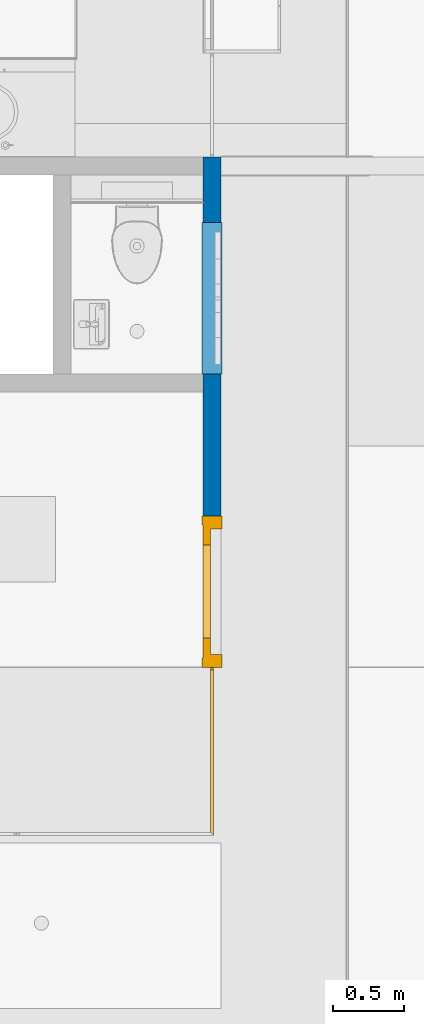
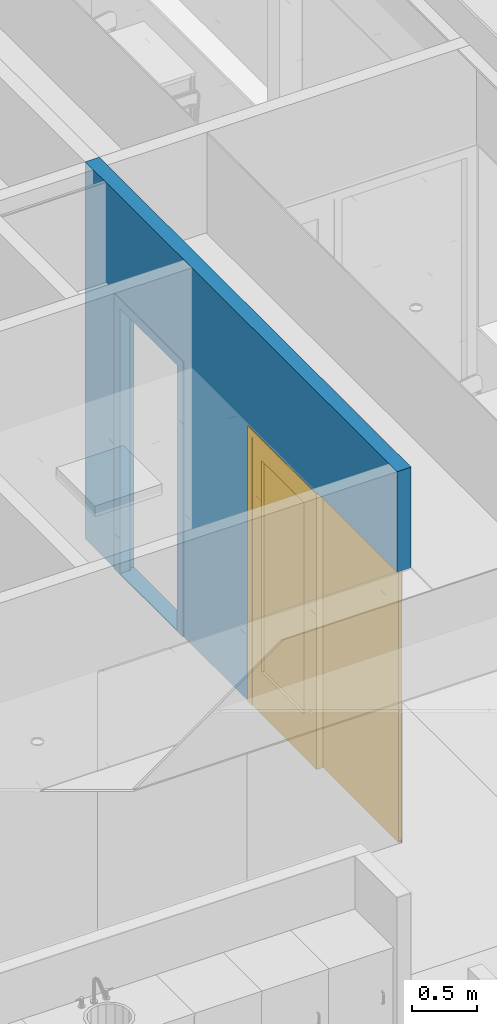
# One storey, part 24 of 260: 1 building element part, 1 door, 1 wall, 1 window, 3 openings, 1 element without a shape of its own.
"""IFC2X3 building model written with IfcOpenShell, lengths in millimetres."""

from ifc_helpers import new_model, entity, si_unit, converted_unit, derived_unit, money_unit, direction, frame, origin_with_axes, place, context, subcontext, project, spatial, open_shell, faceted_brep, surface_model, source, transform, mapped, material, type_object, type_shapes, element, fill, aggregate, save


model = new_model("IFC2X3")

# Units and contexts
model_context = context("Model", 3, precision=0.01, world=origin_with_axes(), true_north=direction((0.0, 1.0)))
plan_context = context("Plan", 3, precision=0.01, world=origin_with_axes(), true_north=direction((0.0, 1.0)))
body_context = subcontext(model_context, "Body", "Model", "MODEL_VIEW")
ifc_project = project(units=[si_unit("LENGTHUNIT", "METRE", prefix="MILLI"), si_unit("AREAUNIT", "SQUARE_METRE"), si_unit("VOLUMEUNIT", "CUBIC_METRE"), converted_unit("PLANEANGLEUNIT", "DEGREE", entity("IfcPlaneAngleMeasure", 0.0174532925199), si_unit("PLANEANGLEUNIT", "RADIAN"), dimensions=[0, 0, 0, 0, 0, 0, 0]), money_unit("EUR"), converted_unit("TIMEUNIT", "Year", entity("IfcTimeMeasure", 31556926.0), si_unit("TIMEUNIT", "SECOND"), dimensions=[0, 0, 1, 0, 0, 0, 0]), si_unit("MASSUNIT", "GRAM", prefix="KILO"), si_unit("THERMODYNAMICTEMPERATUREUNIT", "DEGREE_CELSIUS"), si_unit("LUMINOUSINTENSITYUNIT", "LUMEN"), si_unit("ENERGYUNIT", "JOULE", prefix="MEGA"), derived_unit("THERMALCONDUCTANCEUNIT", [(si_unit("POWERUNIT", "WATT"), 1), (si_unit("LENGTHUNIT", "METRE"), -1), (si_unit("THERMODYNAMICTEMPERATUREUNIT", "KELVIN"), -1)]), derived_unit("SPECIFICHEATCAPACITYUNIT", [(si_unit("ENERGYUNIT", "JOULE"), 1), (si_unit("MASSUNIT", "GRAM", prefix="KILO"), -1), (si_unit("THERMODYNAMICTEMPERATUREUNIT", "KELVIN"), -1)]), derived_unit("MASSDENSITYUNIT", [(si_unit("MASSUNIT", "GRAM", prefix="KILO"), 1), (si_unit("VOLUMEUNIT", "CUBIC_METRE"), -1)])], contexts=[model_context, plan_context])

# Site, building, storey
site_placement = place(None, origin_with_axes())
site = spatial("IfcSite", under=ifc_project, at=site_placement, Name="Site", CompositionType="ELEMENT")
building_placement = place(site_placement, origin_with_axes())
building = spatial("IfcBuilding", under=site, at=building_placement, Name="Naam gebouw", CompositionType="ELEMENT")
storey_placement = place(building_placement, frame((0.0, 0.0, 3960.0), z_axis=(0.0, 0.0, 1.0), x_axis=(1.0, 0.0, 0.0)))
storey = spatial("IfcBuildingStorey", under=building, at=storey_placement, Name="verdieping", CompositionType="ELEMENT", Elevation=3960.0)

# Wall, openings, window, doors, building element part
ifc_material = material(Name="ALG - LICHTE SCHEIDINGSWAND")
wall_type = type_object("IfcWallType", Name="ALG LSW 125 125", PredefinedType="NOTDEFINED")
wall_placement = place(storey_placement, frame((32075.0, 15290.0, 0.0), z_axis=(0.0, 0.0, 1.0), x_axis=(0.0, 1.0, 0.0)))
wall = element("IfcWall", 1, at=wall_placement, inside=storey, type_object=wall_type, material=ifc_material, Name="22_GF 125 ECO DGS/2.75.2A", context=body_context, shape_type="Brep", body=[
    faceted_brep([(2299.0, -125.0, 0.0), (3297.5, -125.0, 0.0), (3297.5, -124.999927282, 2600.0), (4361.5, -124.999927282, 2600.0), (4361.5, -125.0, 0.0), (4822.5, -125.0, 0.0), (4822.5, -125.0, 3560.0), (0.0, -125.0, 3560.0), (0.000133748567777, -124.999927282, 2612.0), (1234.99996939, -124.999927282, 2612.0), (1235.0, -124.999927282, 2600.0), (2299.0, -124.999927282, 2600.0), (2299.0, 0.0, 0.0), (3297.5, 0.0, 0.0), (3297.5, 0.0, 2600.0), (4361.5, 0.0, 2600.0), (4361.5, 0.0, 0.0), (4822.5, 0.0, 0.0), (4822.5, 0.0, 3560.0), (0.0, 0.0, 3560.0), (0.000133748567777, 0.0, 2612.0), (1234.99996939, 0.0, 2612.0), (1235.0, 0.0, 2600.0), (2299.0, 0.0, 2600.0)], [[[0, 1, 2, 3, 4, 5, 6, 7, 8, 9, 10, 11]], [[12, 13, 1, 0]], [[14, 2, 1, 13]], [[15, 3, 2, 14]], [[16, 4, 3, 15]], [[5, 4, 16, 17]], [[17, 18, 6, 5]], [[19, 7, 6, 18]], [[20, 8, 7, 19]], [[9, 8, 20, 21]], [[10, 9, 21, 22]], [[11, 10, 22, 23]], [[0, 11, 23, 12]], [[15, 14, 13, 12, 23, 22, 21, 20, 19, 18, 17, 16]]]),
])
opening_1_placement = place(wall_placement, frame((653.75, 0.0, 0.0), z_axis=(0.0, 0.0, 1.0), x_axis=(1.0, 0.0, 0.0)))
opening_1 = element("IfcOpeningElement", 2, at=opening_1_placement, cuts=wall, Name="31_10.13c", context=body_context, shape_type="Brep", body=[
    faceted_brep([(-403.75, 125.0, 0.0), (581.25, 125.0, 0.0), (581.25, -72.5, 0.0), (-601.25, -72.5, 0.0), (-403.75, 125.0, 2600.0), (581.25, 125.0, 2600.0), (581.25, -72.5, 2600.0), (-601.25, -72.5, 2600.0)], [[[0, 1, 2, 3]], [[4, 5, 1, 0]], [[1, 5, 6, 2]], [[3, 2, 6, 7]], [[0, 3, 7, 4]], [[5, 4, 7, 6]]]),
    faceted_brep([(-653.75, -250.0, 0.0), (-653.75, -250.0, 2600.0), (-653.75, -125.0, 2600.0), (-653.75, -125.0, 0.0), (581.25, -250.0, 0.0), (581.25, -250.0, 2600.0), (581.25, -72.5, 2600.0), (-601.25, -72.5, 2600.0), (-601.25, -72.5, 0.0), (581.25, -72.5, 0.0)], [[[0, 1, 2, 3]], [[0, 4, 5, 1]], [[1, 5, 6, 7, 2]], [[7, 8, 3, 2]], [[4, 0, 3, 8, 9]], [[5, 4, 9, 6]], [[7, 6, 9, 8]]]),
])
opening_2_placement = place(wall_placement, frame((1767.0, 0.0, 0.0), z_axis=(0.0, 0.0, 1.0), x_axis=(1.0, 0.0, 0.0)))
opening_2 = element("IfcOpeningElement", 3, at=opening_2_placement, cuts=wall, Name="32_02.01", context=body_context, shape_type="Brep", body=[
    faceted_brep([(532.0, -125.0, 2600.0), (532.0, -125.0, 0.0), (532.0, 257.0, 0.0), (532.0, 257.0, 2600.0), (-532.0, -125.0, 2600.0), (-532.0, -125.0, 0.0), (-532.0, 257.0, 0.0), (-532.0, 257.0, 2600.0)], [[[0, 1, 2, 3]], [[0, 4, 5, 1]], [[1, 5, 6, 2]], [[3, 2, 6, 7]], [[4, 0, 3, 7]], [[5, 4, 7, 6]]]),
])
opening_3_placement = place(wall_placement, frame((3829.5, 0.0, 0.0), z_axis=(0.0, 0.0, 1.0), x_axis=(1.0, 0.0, 0.0)))
opening_3 = element("IfcOpeningElement", 4, at=opening_3_placement, cuts=wall, Name="32_01.05", context=body_context, shape_type="Brep", body=[
    faceted_brep([(532.0, -257.0, 2600.0), (532.0, -257.0, 0.0), (532.0, 125.0, 0.0), (532.0, 125.0, 2600.0), (-532.0, -257.0, 2600.0), (-532.0, -257.0, 0.0), (-532.0, 125.0, 0.0), (-532.0, 125.0, 2600.0)], [[[0, 1, 2, 3]], [[0, 4, 5, 1]], [[1, 5, 6, 2]], [[3, 2, 6, 7]], [[4, 0, 3, 7]], [[5, 4, 7, 6]]]),
])
window_style = type_object("IfcWindowStyle", Name="R1 25", ConstructionType="NOTDEFINED", OperationType="SINGLE_PANEL", ParameterTakesPrecedence=False, Sizeable=False)
window_placement = place(opening_1_placement, frame((581.25, 0.0, 0.0), z_axis=(0.0, 0.0, 1.0), x_axis=(-1.0, 0.0, 0.0)))
window = element("IfcWindow", 5, at=window_placement, inside=storey, type_object=window_style, Name="31_10.13c", ObjectType="WINDOW", OverallHeight=2600.0, OverallWidth=1162.5, context=body_context, shape_type="SurfaceModel", body=[
    faceted_brep([(20.0, 52.5, 2580.0), (20.0, 72.5, 2580.0), (0.0, 72.5, 2580.0), (0.0, 52.5, 2580.0), (20.0, 52.5, 20.0), (20.0, 72.5, 20.0), (0.0, 72.5, 20.0), (0.0, 52.5, 20.0)], [[[0, 1, 2, 3]], [[4, 5, 1, 0]], [[1, 5, 6, 2]], [[3, 2, 6, 7]], [[0, 3, 7, 4]], [[7, 6, 5, 4]]]),
    faceted_brep([(0.0, 72.5, 20.0), (0.0, 52.5, 20.0), (20.0, 52.5, 20.0), (20.0, 72.5, 20.0), (0.0, 52.5, 0.0), (0.0, 72.5, 0.0), (1162.5, 52.5, 0.0), (1162.5, 52.5, 20.0), (1182.5, 72.5, 20.0), (1182.5, 72.5, 0.0)], [[[0, 1, 2, 3]], [[4, 1, 0, 5]], [[1, 4, 6, 7, 2]], [[2, 7, 8, 3]], [[5, 0, 3, 8, 9]], [[5, 9, 6, 4]], [[7, 6, 9, 8]]]),
    faceted_brep([(0.0, 72.5, 2580.0), (20.0, 72.5, 2580.0), (20.0, 52.5, 2580.0), (0.0, 52.5, 2580.0), (0.0, 72.5, 2600.0), (1182.5, 72.5, 2600.0), (1182.5, 72.5, 2580.0), (1162.5, 52.5, 2580.0), (0.0, 52.5, 2600.0), (1162.5, 52.5, 2600.0)], [[[0, 1, 2, 3]], [[0, 4, 5, 6, 1]], [[7, 2, 1, 6]], [[8, 3, 2, 7, 9]], [[3, 8, 4, 0]], [[4, 8, 9, 5]], [[9, 7, 6, 5]]]),
    surface_model("IfcShellBasedSurfaceModel", [(20.0, 52.5, 20.0), (1162.5, 52.5, 20.0), (1162.5, 52.5, 2580.0), (20.0, 52.5, 2580.0)], [open_shell([[[0, 1, 2, 3]]])]),
    surface_model("IfcShellBasedSurfaceModel", [(20.0, 72.5, 20.0), (20.0, 72.5, 2580.0), (1182.5, 72.5, 2580.0), (1182.5, 72.5, 20.0)], [open_shell([[[0, 1, 2, 3]]])]),
])
fill(opening_1, window)
door_style_1 = type_object("IfcDoorStyle", Name="D1 25", ConstructionType="NOTDEFINED", OperationType="SINGLE_SWING_RIGHT", ParameterTakesPrecedence=False, Sizeable=False)
shared_shape = source(origin_with_axes(), body_context, "Body", "SurfaceModel", [
    faceted_brep([(-442.0, -60.0, 0.0), (-442.0, -60.0, 2510.0), (-442.0, -139.0, 2510.0), (-442.0, -139.0, 0.0), (-467.0, -60.0, 2510.0), (-467.0, -60.0, 0.0), (-467.0, 0.0, 2510.0), (-532.0, 0.0, 2510.0), (-532.0, -139.0, 2510.0), (-532.0, -139.0, 0.0), (-532.0, 0.0, 0.0), (-467.0, 0.0, 0.0)], [[[0, 1, 2, 3]], [[4, 1, 0, 5]], [[4, 6, 7, 8, 2, 1]], [[3, 2, 8, 9]], [[5, 0, 3, 9, 10, 11]], [[6, 4, 5, 11]], [[6, 11, 10, 7]], [[10, 9, 8, 7]]]),
    faceted_brep([(467.0, -60.0, 2510.0), (442.0, -60.0, 2510.0), (442.0, -139.0, 2510.0), (532.0, -139.0, 2510.0), (532.0, 0.0, 2510.0), (467.0, 0.0, 2510.0), (467.0, -60.0, 0.0), (442.0, -60.0, 0.0), (442.0, -139.0, 0.0), (532.0, -139.0, 0.0), (532.0, 0.0, 0.0), (467.0, 0.0, 0.0)], [[[0, 1, 2, 3, 4, 5]], [[1, 0, 6, 7]], [[1, 7, 8, 2]], [[3, 2, 8, 9]], [[4, 3, 9, 10]], [[11, 5, 4, 10]], [[0, 5, 11, 6]], [[6, 11, 10, 9, 8, 7]]]),
    faceted_brep([(-467.0, 0.0, 2535.0), (-467.0, 0.0, 2510.0), (-532.0, 0.0, 2510.0), (-532.0, 0.0, 2600.0), (532.0, 0.0, 2600.0), (532.0, 0.0, 2510.0), (467.0, 0.0, 2510.0), (467.0, 0.0, 2535.0), (-467.0, -60.0, 2535.0), (-467.0, -60.0, 2510.0), (-442.0, -60.0, 2510.0), (-442.0, -139.0, 2510.0), (-532.0, -139.0, 2510.0), (-532.0, -139.0, 2600.0), (532.0, -139.0, 2600.0), (532.0, -139.0, 2510.0), (467.0, -60.0, 2510.0), (442.0, -139.0, 2510.0), (442.0, -60.0, 2510.0), (467.0, -60.0, 2535.0)], [[[0, 1, 2, 3, 4, 5, 6, 7]], [[1, 0, 8, 9]], [[9, 10, 11, 12, 2, 1]], [[2, 12, 13, 3]], [[3, 13, 14, 4]], [[4, 14, 15, 5]], [[16, 6, 5, 15, 17, 18]], [[7, 6, 16, 19]], [[0, 7, 19, 8]], [[16, 18, 10, 9, 8, 19]], [[10, 18, 17, 11]], [[17, 15, 14, 13, 12, 11]]]),
    faceted_brep([(467.0, -6.0, 400.0), (467.0, -60.0, 400.0), (327.0, -60.0, 400.0), (327.0, -6.0, 400.0), (467.0, -6.0, 2395.0), (467.0, -60.0, 2395.0), (327.0, -60.0, 2395.0), (327.0, -6.0, 2395.0)], [[[0, 1, 2, 3]], [[4, 5, 1, 0]], [[1, 5, 6, 2]], [[3, 2, 6, 7]], [[0, 3, 7, 4]], [[7, 6, 5, 4]]]),
    faceted_brep([(-467.0, -6.0, 400.0), (-467.0, -60.0, 400.0), (-467.0, -60.0, 2395.0), (-467.0, -6.0, 2395.0), (-327.0, -6.0, 400.0), (-327.0, -60.0, 400.0), (-327.0, -60.0, 2395.0), (-327.0, -6.0, 2395.0)], [[[0, 1, 2, 3]], [[4, 5, 1, 0]], [[1, 5, 6, 2]], [[3, 2, 6, 7]], [[0, 3, 7, 4]], [[7, 6, 5, 4]]]),
    faceted_brep([(467.0, -6.0, 0.0), (467.0, -60.0, 0.0), (-467.0, -60.0, 0.0), (-467.0, -6.0, 0.0), (467.0, -6.0, 400.0), (467.0, -60.0, 400.0), (327.0, -60.0, 400.0), (-327.0, -60.0, 400.0), (-467.0, -60.0, 400.0), (-467.0, -6.0, 400.0), (-327.0, -6.0, 400.0), (327.0, -6.0, 400.0)], [[[0, 1, 2, 3]], [[4, 5, 1, 0]], [[1, 5, 6, 7, 8, 2]], [[3, 2, 8, 9]], [[0, 3, 9, 10, 11, 4]], [[11, 6, 5, 4]], [[10, 7, 6, 11]], [[9, 8, 7, 10]]]),
    faceted_brep([(467.0, -6.0, 2535.0), (467.0, -60.0, 2535.0), (467.0, -60.0, 2395.0), (467.0, -6.0, 2395.0), (-467.0, -6.0, 2535.0), (-467.0, -60.0, 2535.0), (-467.0, -60.0, 2395.0), (-327.0, -60.0, 2395.0), (327.0, -60.0, 2395.0), (327.0, -6.0, 2395.0), (-327.0, -6.0, 2395.0), (-467.0, -6.0, 2395.0)], [[[0, 1, 2, 3]], [[4, 5, 1, 0]], [[1, 5, 6, 7, 8, 2]], [[3, 2, 8, 9]], [[0, 3, 9, 10, 11, 4]], [[11, 6, 5, 4]], [[10, 7, 6, 11]], [[9, 8, 7, 10]]]),
    surface_model("IfcShellBasedSurfaceModel", [(327.0, -27.0, 400.0), (-327.0, -27.0, 400.0), (-327.0, -27.0, 2395.0), (327.0, -27.0, 2395.0)], [open_shell([[[0, 1, 2, 3]]])]),
    surface_model("IfcShellBasedSurfaceModel", [(327.0, -39.0, 400.0), (327.0, -39.0, 2395.0), (-327.0, -39.0, 2395.0), (-327.0, -39.0, 400.0)], [open_shell([[[0, 1, 2, 3]]])]),
])
type_shapes(door_style_1, [shared_shape])
door_1_placement = place(opening_2_placement, frame((-532.0, 0.0, 0.0), z_axis=(0.0, 0.0, 1.0), x_axis=(1.0, 0.0, 0.0)))
door_1 = element("IfcDoor", 6, at=door_1_placement, inside=storey, type_object=door_style_1, Name="32_02.01", ObjectType="DOOR", OverallHeight=2600.0, OverallWidth=1064.0, context=body_context, shape_type="MappedRepresentation", body=[
    mapped(shared_shape, transform((532.0, 7.00000000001, 0.0))),
])
fill(opening_2, door_1)
door_style_2 = type_object("IfcDoorStyle", Name="D1 25", ConstructionType="NOTDEFINED", OperationType="SINGLE_SWING_LEFT", ParameterTakesPrecedence=False, Sizeable=False)
door_2_placement = place(opening_3_placement, frame((532.0, 0.0, 0.0), z_axis=(0.0, 0.0, 1.0), x_axis=(-1.0, 0.0, 0.0)))
door_2 = element("IfcDoor", 7, at=door_2_placement, inside=storey, type_object=door_style_2, Name="32_01.05", ObjectType="DOOR", OverallHeight=2600.0, OverallWidth=1064.0)
fill(opening_3, door_2)
building_element_part_placement = place(door_2_placement, origin_with_axes())
building_element_part = element("IfcBuildingElementPart", 8, at=building_element_part_placement, context=body_context, shape_type="Brep", body=[
    faceted_brep([(999.0, 92.0, 10.0), (999.0, 132.0, 10.0), (65.0, 132.0, 10.0), (65.0, 92.0, 10.0), (90.0, 92.0, 10.0), (90.0, -7.00000000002, 10.0), (974.0, -7.00000000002, 10.0), (974.0, 92.0, 10.0), (999.0, 92.0, 0.0), (999.0, 132.0, 0.0), (65.0, 132.0, 0.0), (65.0, 92.0, 0.0), (90.0, 92.0, 0.0), (90.0, -7.00000000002, 0.0), (974.0, -7.00000000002, 0.0), (974.0, 92.0, 0.0)], [[[0, 1, 2, 3, 4, 5, 6, 7]], [[8, 9, 1, 0]], [[9, 10, 2, 1]], [[11, 3, 2, 10]], [[3, 11, 12, 4]], [[5, 4, 12, 13]], [[6, 5, 13, 14]], [[14, 15, 7, 6]], [[7, 15, 8, 0]], [[15, 14, 13, 12, 11, 10, 9, 8]]]),
    faceted_brep([(974.0, 82.0, 0.0), (974.0, -7.00000000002, 0.0), (974.0, -7.00000000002, 2510.0), (974.0, 82.0, 2510.0), (999.0, 82.0, 0.0), (999.0, 132.0, 0.0), (1064.0, 132.0, 0.0), (1064.0, -7.00000000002, 0.0), (1064.0, -7.00000000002, 2510.0), (999.0, 82.0, 2510.0), (1064.0, 132.0, 2510.0), (999.0, 132.0, 2510.0)], [[[0, 1, 2, 3]], [[4, 5, 6, 7, 1, 0]], [[1, 7, 8, 2]], [[9, 3, 2, 8, 10, 11]], [[9, 4, 0, 3]], [[11, 5, 4, 9]], [[11, 10, 6, 5]], [[6, 10, 8, 7]]]),
    faceted_brep([(65.0, 82.0, 2510.0), (65.0, 132.0, 2510.0), (0.0, 132.0, 2510.0), (0.0, -7.00000000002, 2510.0), (90.0, -7.00000000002, 2510.0), (90.0, 82.0, 2510.0), (65.0, 82.0, 0.0), (65.0, 132.0, 0.0), (0.0, 132.0, 0.0), (0.0, -7.00000000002, 0.0), (90.0, -7.00000000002, 0.0), (90.0, 82.0, 0.0)], [[[0, 1, 2, 3, 4, 5]], [[0, 6, 7, 1]], [[7, 8, 2, 1]], [[2, 8, 9, 3]], [[3, 9, 10, 4]], [[5, 4, 10, 11]], [[5, 11, 6, 0]], [[6, 11, 10, 9, 8, 7]]]),
    faceted_brep([(999.0, 132.0, 2535.0), (65.0, 132.0, 2535.0), (65.0, 132.0, 2510.0), (0.0, 132.0, 2510.0), (0.0, 132.0, 2600.0), (1064.0, 132.0, 2600.0), (1064.0, 132.0, 2510.0), (999.0, 132.0, 2510.0), (999.0, 82.0, 2535.0), (65.0, 82.0, 2535.0), (65.0, 82.0, 2510.0), (90.0, 82.0, 2510.0), (90.0, -7.00000000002, 2510.0), (0.0, -7.00000000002, 2510.0), (0.0, -7.00000000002, 2600.0), (1064.0, -7.00000000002, 2600.0), (1064.0, -7.00000000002, 2510.0), (999.0, 82.0, 2510.0), (974.0, -7.00000000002, 2510.0), (974.0, 82.0, 2510.0)], [[[0, 1, 2, 3, 4, 5, 6, 7]], [[0, 8, 9, 1]], [[1, 9, 10, 2]], [[10, 11, 12, 13, 3, 2]], [[4, 3, 13, 14]], [[5, 4, 14, 15]], [[6, 5, 15, 16]], [[17, 7, 6, 16, 18, 19]], [[7, 17, 8, 0]], [[10, 9, 8, 17, 19, 11]], [[19, 18, 12, 11]], [[12, 18, 16, 15, 14, 13]]]),
])
aggregate(door_2, [building_element_part])

save(model, "model.ifc")
